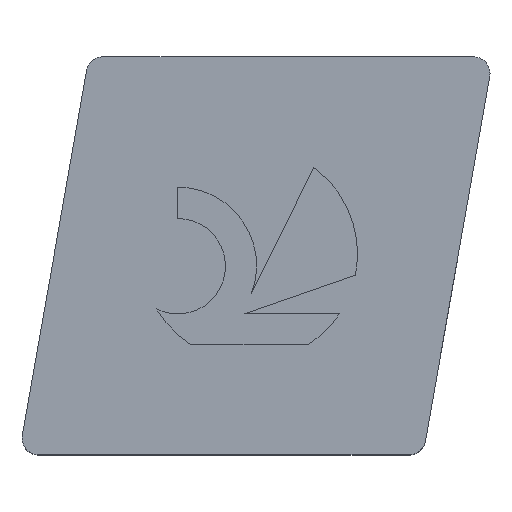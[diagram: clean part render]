
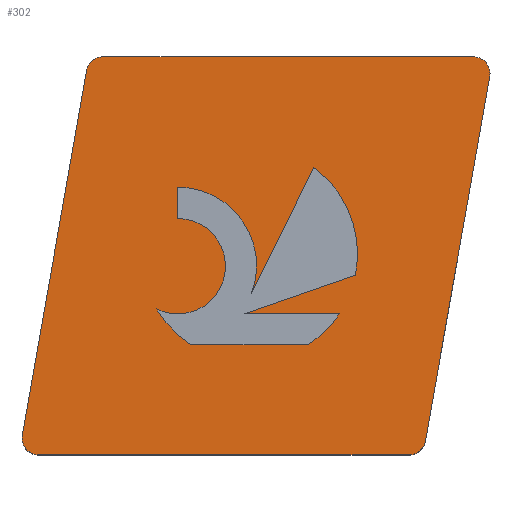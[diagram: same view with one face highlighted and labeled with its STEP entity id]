
A CAD part, top view. The second image highlights one B-rep face of the part: STEP entity #302.
In plain terms, the highlighted planar face has unit normal (0, 0, 1).
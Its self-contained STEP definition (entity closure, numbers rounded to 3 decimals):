
#144=VERTEX_POINT('',#396);
#152=EDGE_CURVE('',#328,#228,#404,.T.);
#160=VERTEX_POINT('',#413);
#164=EDGE_CURVE('',#258,#260,#417,.T.);
#176=VERTEX_POINT('',#432);
#178=EDGE_CURVE('',#144,#290,#434,.T.);
#190=EDGE_CURVE('',#222,#326,#449,.T.);
#192=VERTEX_POINT('',#451);
#196=VERTEX_POINT('',#455);
#198=EDGE_CURVE('',#196,#144,#457,.T.);
#204=VERTEX_POINT('',#464);
#214=EDGE_CURVE('',#252,#176,#474,.T.);
#222=VERTEX_POINT('',#482);
#228=VERTEX_POINT('',#489);
#236=EDGE_CURVE('',#238,#340,#498,.T.);
#238=VERTEX_POINT('',#500);
#252=VERTEX_POINT('',#516);
#254=EDGE_CURVE('',#204,#252,#518,.T.);
#256=EDGE_CURVE('',#228,#258,#520,.T.);
#258=VERTEX_POINT('',#522);
#260=VERTEX_POINT('',#524);
#270=EDGE_CURVE('',#290,#322,#535,.T.);
#288=VERTEX_POINT('',#554);
#290=VERTEX_POINT('',#556);
#298=EDGE_CURVE('',#260,#238,#565,.T.);
#302=ADVANCED_FACE('',(#569,#570),#571,.T.);
#306=EDGE_CURVE('',#176,#222,#575,.T.);
#318=EDGE_CURVE('',#192,#328,#588,.T.);
#320=VERTEX_POINT('',#590);
#322=VERTEX_POINT('',#592);
#324=EDGE_CURVE('',#320,#204,#594,.T.);
#326=VERTEX_POINT('',#596);
#328=VERTEX_POINT('',#598);
#336=EDGE_CURVE('',#326,#196,#607,.T.);
#338=EDGE_CURVE('',#322,#288,#609,.T.);
#340=VERTEX_POINT('',#611);
#346=EDGE_CURVE('',#288,#320,#618,.T.);
#356=EDGE_CURVE('',#160,#192,#628,.T.);
#366=EDGE_CURVE('',#340,#160,#640,.T.);
#396=CARTESIAN_POINT('',(5.39,3.376,0.0));
#404=CIRCLE('',#674,0.397);
#413=CARTESIAN_POINT('',(2.013,9.525,0.0));
#417=CIRCLE('',#691,0.397);
#432=CARTESIAN_POINT('',(3.798,6.406,0.0));
#434=LINE('',#711,#712);
#449=LINE('',#732,#733);
#451=CARTESIAN_POINT('',(1.622,9.197,0.0));
#455=CARTESIAN_POINT('',(8.057,4.302,0.0));
#457=LINE('',#744,#745);
#464=CARTESIAN_POINT('',(4.316,5.535,0.0));
#474=LINE('',#767,#768);
#482=CARTESIAN_POINT('',(5.565,3.853,0.0));
#489=CARTESIAN_POINT('',(0.473,0.0,0.0));
#498=CIRCLE('',#795,0.397);
#500=CARTESIAN_POINT('',(11.269,9.059,0.0));
#516=CARTESIAN_POINT('',(3.798,5.655,0.0));
#518=CIRCLE('',#823,1.141);
#520=LINE('',#826,#827);
#522=CARTESIAN_POINT('',(9.339,0.0,0.0));
#524=CARTESIAN_POINT('',(9.73,0.328,0.0));
#535=CIRCLE('',#849,2.586);
#554=CARTESIAN_POINT('',(4.112,2.64,0.0));
#556=CARTESIAN_POINT('',(7.674,3.376,0.0));
#565=LINE('',#895,#896);
#569=FACE_BOUND('',#902,.T.);
#570=FACE_OUTER_BOUND('',#903,.T.);
#571=PLANE('',#904);
#575=CIRCLE('',#909,1.878);
#588=LINE('',#928,#929);
#590=CARTESIAN_POINT('',(3.294,3.493,0.0));
#592=CARTESIAN_POINT('',(6.93,2.64,0.0));
#594=CIRCLE('',#936,1.141);
#596=CARTESIAN_POINT('',(7.06,6.885,0.0));
#598=CARTESIAN_POINT('',(0.082,0.466,0.0));
#607=CIRCLE('',#950,2.586);
#609=LINE('',#953,#954);
#611=CARTESIAN_POINT('',(10.878,9.525,0.0));
#618=CIRCLE('',#965,2.586);
#628=CIRCLE('',#977,0.397);
#640=LINE('',#993,#994);
#674=AXIS2_PLACEMENT_3D('',#1013,#1014,#1015);
#691=AXIS2_PLACEMENT_3D('',#1035,#1036,#1037);
#711=CARTESIAN_POINT('',(6.675,3.376,0.0));
#712=VECTOR('',#1067,1.0);
#732=CARTESIAN_POINT('',(6.504,5.757,0.0));
#733=VECTOR('',#1094,1.0);
#744=CARTESIAN_POINT('',(5.732,3.495,0.0));
#745=VECTOR('',#1096,1.0);
#767=CARTESIAN_POINT('',(3.798,5.584,0.0));
#768=VECTOR('',#1107,1.0);
#795=AXIS2_PLACEMENT_3D('',#1129,#1130,#1131);
#823=AXIS2_PLACEMENT_3D('',#1154,#1155,#1156);
#826=CARTESIAN_POINT('',(0.473,0.0,0.0));
#827=VECTOR('',#1157,1.0);
#849=AXIS2_PLACEMENT_3D('',#1169,#1170,#1171);
#895=CARTESIAN_POINT('',(9.73,0.328,0.0));
#896=VECTOR('',#1198,1.0);
#902=EDGE_LOOP('',(#1201,#1202,#1203,#1204,#1205,#1206,#1207,#1208,#1209,#1210,#1211));
#903=EDGE_LOOP('',(#1212,#1213,#1214,#1215,#1216,#1217,#1218,#1219));
#904=AXIS2_PLACEMENT_3D('',#1220,#1221,#1222);
#909=AXIS2_PLACEMENT_3D('',#1223,#1224,#1225);
#928=CARTESIAN_POINT('',(1.622,9.197,0.0));
#929=VECTOR('',#1239,1.0);
#936=AXIS2_PLACEMENT_3D('',#1240,#1241,#1242);
#950=AXIS2_PLACEMENT_3D('',#1251,#1252,#1253);
#953=CARTESIAN_POINT('',(4.894,2.64,0.0));
#954=VECTOR('',#1254,1.0);
#965=AXIS2_PLACEMENT_3D('',#1266,#1267,#1268);
#977=AXIS2_PLACEMENT_3D('',#1272,#1273,#1274);
#993=CARTESIAN_POINT('',(10.878,9.525,0.0));
#994=VECTOR('',#1295,1.0);
#1013=CARTESIAN_POINT('',(0.473,0.397,0.0));
#1014=DIRECTION('',(0.0,0.0,1.0));
#1015=DIRECTION('',(-0.985,0.174,0.0));
#1035=CARTESIAN_POINT('',(9.339,0.397,0.0));
#1036=DIRECTION('',(0.0,0.0,1.0));
#1037=DIRECTION('',(0.,-1.0,0.0));
#1067=DIRECTION('',(1.0,0.0,0.0));
#1094=DIRECTION('',(0.442,0.897,-0.0));
#1096=DIRECTION('',(-0.945,-0.328,0.0));
#1107=DIRECTION('',(0.0,1.0,0.0));
#1129=CARTESIAN_POINT('',(10.878,9.128,0.0));
#1130=DIRECTION('',(-0.0,0.0,1.0));
#1131=DIRECTION('',(0.985,-0.174,0.0));
#1154=CARTESIAN_POINT('',(3.805,4.514,0.0));
#1155=DIRECTION('',(0.0,0.0,1.0));
#1156=DIRECTION('',(-0.447,-0.894,0.0));
#1157=DIRECTION('',(1.0,0.0,0.0));
#1169=CARTESIAN_POINT('',(5.521,4.808,0.0));
#1170=DIRECTION('',(0.0,-0.0,-1.0));
#1171=DIRECTION('',(0.545,-0.838,0.0));
#1198=DIRECTION('',(0.174,0.985,0.0));
#1201=ORIENTED_EDGE('',*,*,#214,.T.);
#1202=ORIENTED_EDGE('',*,*,#306,.T.);
#1203=ORIENTED_EDGE('',*,*,#190,.T.);
#1204=ORIENTED_EDGE('',*,*,#336,.T.);
#1205=ORIENTED_EDGE('',*,*,#198,.T.);
#1206=ORIENTED_EDGE('',*,*,#178,.T.);
#1207=ORIENTED_EDGE('',*,*,#270,.T.);
#1208=ORIENTED_EDGE('',*,*,#338,.T.);
#1209=ORIENTED_EDGE('',*,*,#346,.T.);
#1210=ORIENTED_EDGE('',*,*,#324,.T.);
#1211=ORIENTED_EDGE('',*,*,#254,.T.);
#1212=ORIENTED_EDGE('',*,*,#256,.T.);
#1213=ORIENTED_EDGE('',*,*,#164,.T.);
#1214=ORIENTED_EDGE('',*,*,#298,.T.);
#1215=ORIENTED_EDGE('',*,*,#236,.T.);
#1216=ORIENTED_EDGE('',*,*,#366,.T.);
#1217=ORIENTED_EDGE('',*,*,#356,.T.);
#1218=ORIENTED_EDGE('',*,*,#318,.T.);
#1219=ORIENTED_EDGE('',*,*,#152,.T.);
#1220=CARTESIAN_POINT('',(5.676,4.763,0.0));
#1221=DIRECTION('',(0.0,0.0,1.0));
#1222=DIRECTION('',(1.0,0.0,0.0));
#1223=CARTESIAN_POINT('',(3.812,4.528,0.0));
#1224=DIRECTION('',(0.0,-0.0,-1.0));
#1225=DIRECTION('',(0.933,-0.359,0.0));
#1239=DIRECTION('',(-0.174,-0.985,0.0));
#1240=CARTESIAN_POINT('',(3.805,4.514,0.0));
#1241=DIRECTION('',(0.0,0.0,1.0));
#1242=DIRECTION('',(-0.447,-0.894,0.0));
#1251=CARTESIAN_POINT('',(5.521,4.808,0.0));
#1252=DIRECTION('',(0.0,-0.0,-1.0));
#1253=DIRECTION('',(0.981,-0.196,0.0));
#1254=DIRECTION('',(-1.0,0.0,0.0));
#1266=CARTESIAN_POINT('',(5.521,4.808,0.0));
#1267=DIRECTION('',(-0.0,0.0,-1.0));
#1268=DIRECTION('',(-0.861,-0.508,0.0));
#1272=CARTESIAN_POINT('',(2.013,9.128,0.0));
#1273=DIRECTION('',(0.0,0.0,1.0));
#1274=DIRECTION('',(0.,1.0,0.0));
#1295=DIRECTION('',(-1.0,0.0,0.0));
